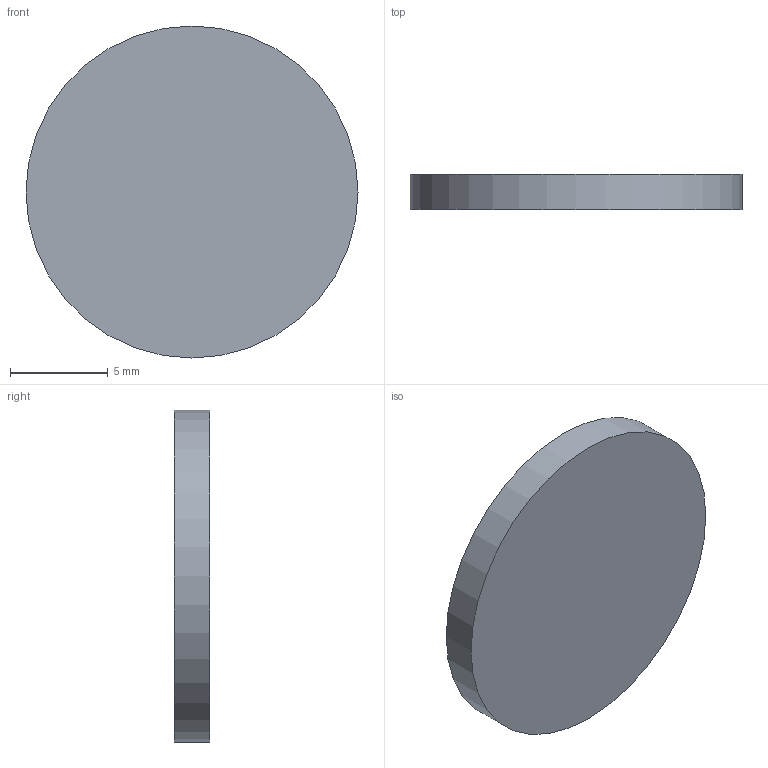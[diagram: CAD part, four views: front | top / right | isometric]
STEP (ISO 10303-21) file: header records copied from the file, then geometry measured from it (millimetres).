
FILE_DESCRIPTION(('Open CASCADE Model'),'2;1');
FILE_NAME('Open CASCADE Shape Model','2026-09-16T15:55:11',('Author'),( 'Open CASCADE'),'Open CASCADE STEP processor 7.9','Open CASCADE 7.9' ,'Unknown');
FILE_SCHEMA(('AUTOMOTIVE_DESIGN { 1 0 10303 214 1 1 1 1 }'));
Length unit declared in the file: millimetre
Products named in the file (1): Open CASCADE STEP translator 7.9 10
Bounding box: 17 x 1.8 x 17 mm (x, y, z)
Volume: 408.6 mm3; surface area: 550.1 mm2
Topology: 1 solids, 1 shells, 3 faces, 3 edges, 2 vertices
Faces by surface type: plane 2, cylinder 1
Full cylindrical faces by diameter (mm): 17 x1
Entity records: 108 total; most frequent: DIRECTION 19, CARTESIAN_POINT 15, AXIS2_PLACEMENT_3D 6, ORIENTED_EDGE 6, PCURVE 6, DEFINITIONAL_REPRESENTATION 6, LINE 5, VECTOR 5
